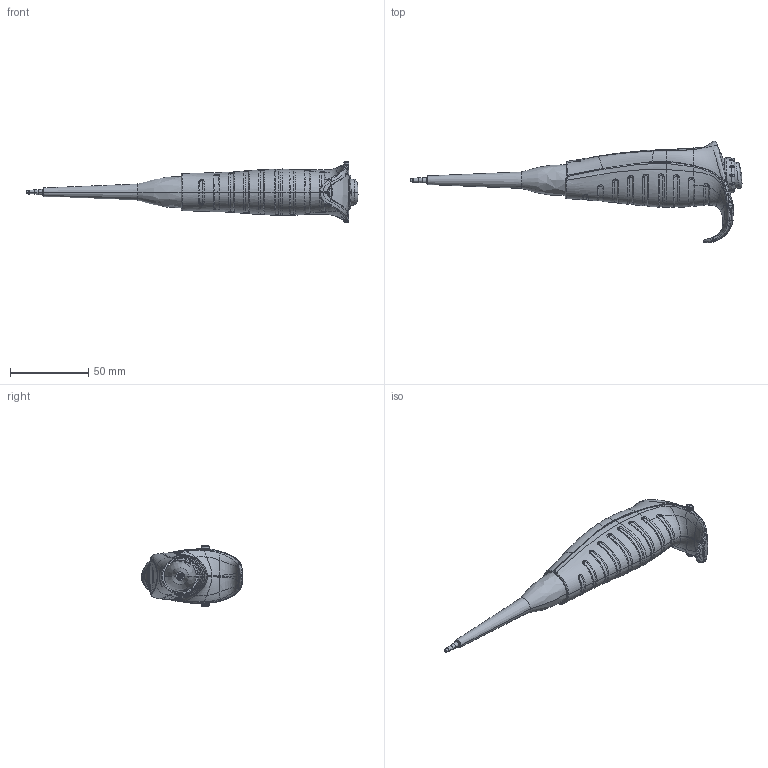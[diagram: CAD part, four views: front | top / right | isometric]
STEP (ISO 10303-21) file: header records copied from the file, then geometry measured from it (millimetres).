
FILE_DESCRIPTION((''),'2;1');
FILE_NAME('SIMP_10D','2025-02-07T14:24:56',('Jukka.Kaasinen'),(''),'CREO PARAMETRIC BY PTC INC, 2024014','CREO PARAMETRIC BY PTC INC, 2024014','');
FILE_SCHEMA(('AP242_MANAGED_MODEL_BASED_3D_ENGINEERING_MIM_LF { 1 0 10303 442 1 1 4 }'));
Products named in the file (1): SIMP_10D
Bounding box: 212.66 x 65.11 x 38.77 mm (x, y, z)
Surface area: 18838.5 mm2 (no closed solid volume)
Topology: 0 solids, 57 shells, 836 faces, 2857 edges, 2030 vertices
Faces by surface type: bspline 749, plane 36, cone 19, revolution 8, cylinder 8, extrusion 8, sphere 4, torus 4
Entity records: 147424 total; most frequent: CARTESIAN_POINT 125052, ORIENTED_EDGE 4465, EDGE_CURVE 2851, B_SPLINE_CURVE_WITH_KNOTS 2485, VERTEX_POINT 2030, PRESENTATION_STYLE_ASSIGNMENT 852, STYLED_ITEM 852, EDGE_LOOP 847
